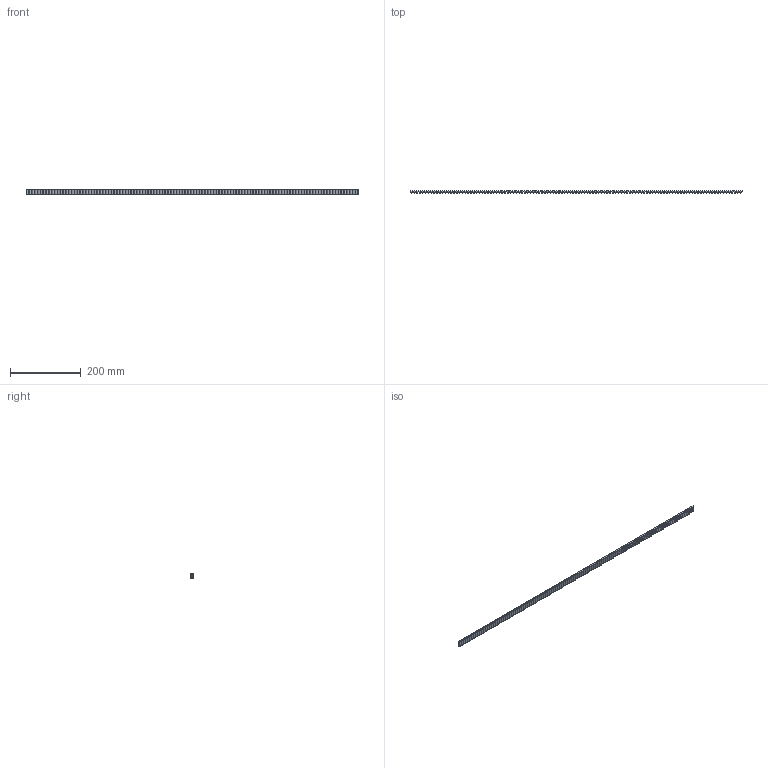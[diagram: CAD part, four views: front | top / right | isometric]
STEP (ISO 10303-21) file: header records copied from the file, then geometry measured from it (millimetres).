
FILE_DESCRIPTION(/* description */ ('www.motedis.com/part/DRIVBEL936','CAx-IF Rec.Pracs.---Representation and Presentation of Product Manufacturing Information (PMI)---4.0---2014-10-13'),/* implementation_level */ '2;1');
FILE_NAME(/* name */ 'Motedis DRIVBEL936.stp',/* time_stamp */ '2026-04-20T09:46:13+02:00',/* author */ ('Motedis'),/* organization */ ('Motedis GmbH'),/* preprocessor_version */ 'ST-DEVELOPER v20.1',/* originating_system */ 'Autodesk Inventor 2026',/* authorisation */ 'Motedis GmbH');
FILE_SCHEMA (('AP242_MANAGED_MODEL_BASED_3D_ENGINEERING_MIM_LF { 1 0 10303 442 2 1 4 }'));
Length unit declared in the file: millimetre
Products named in the file (1): Motedis DRIVBEL936
Bounding box: 936 x 5.99 x 15 mm (x, y, z)
Volume: 61765.2 mm3; surface area: 43566.7 mm2
Topology: 1 solids, 2 shells, 475 faces, 1420 edges, 948 vertices
Faces by surface type: cylinder 351, plane 124
Entity records: 16514 total; most frequent: DIRECTION 3106, CARTESIAN_POINT 2865, ORIENTED_EDGE 2836, EDGE_CURVE 1420, AXIS2_PLACEMENT_3D 1194, VERTEX_POINT 948, LINE 718, VECTOR 718
